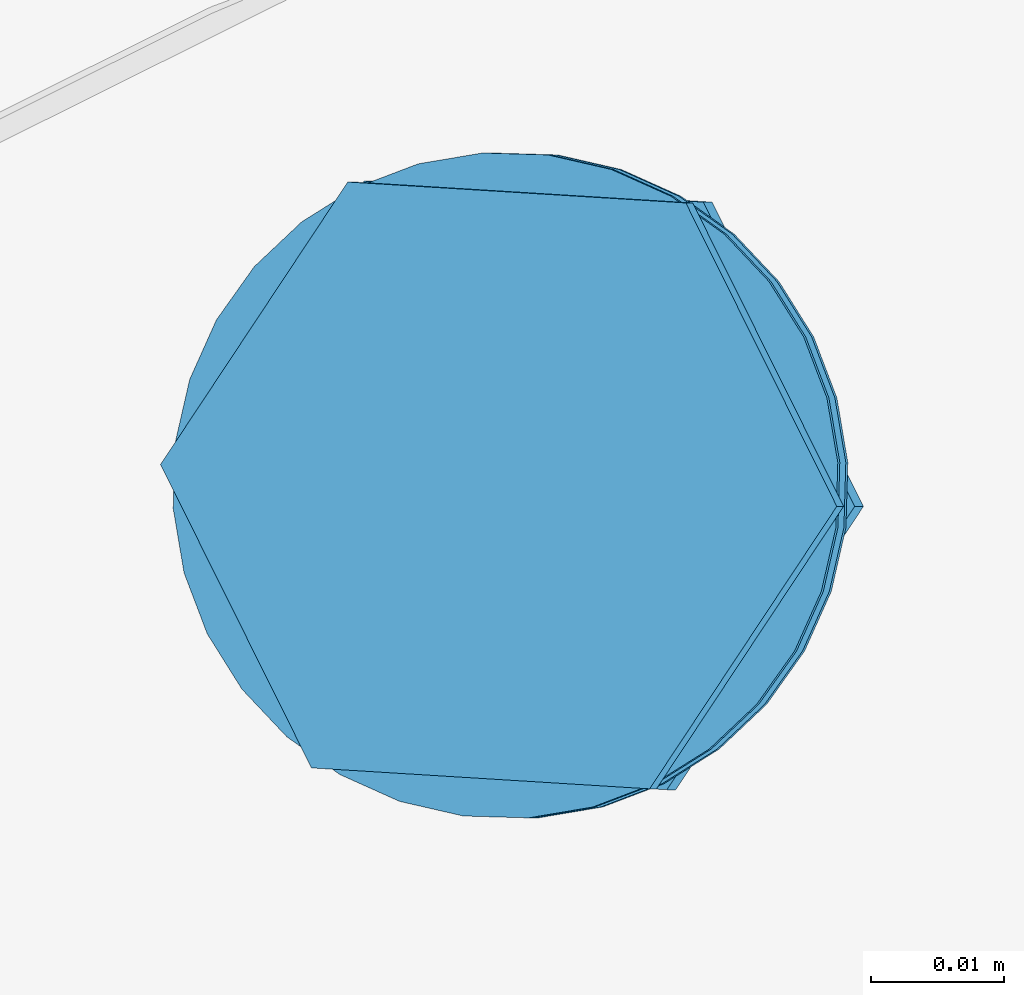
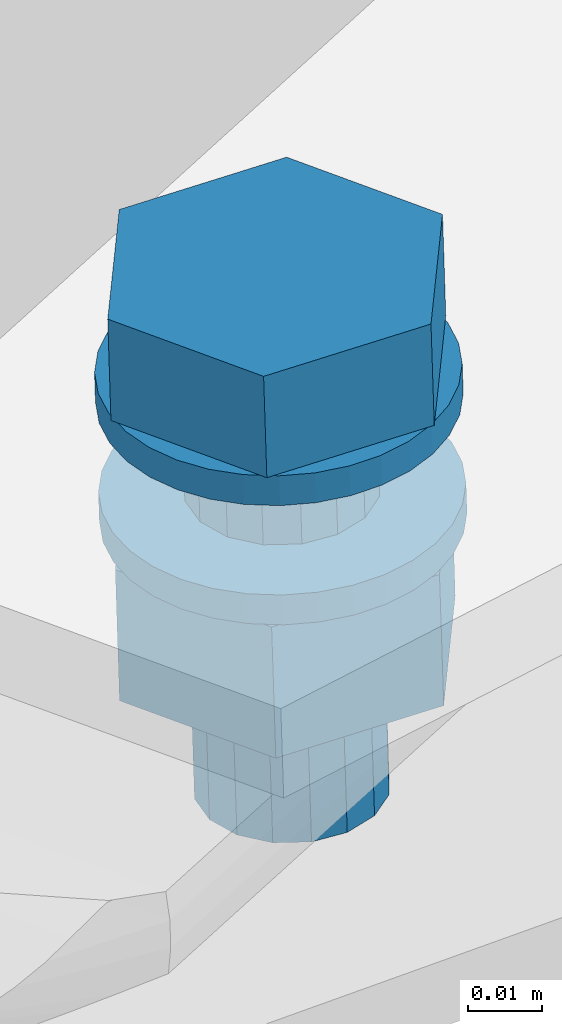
# One storey, part 251 of 476: 1 mechanical fastener.
"""IFC2X3 building model written with IfcOpenShell, lengths in millimetres."""

from ifc_helpers import new_model, entity, si_unit, converted_unit, origin_with_axes, place, context, project, spatial, faceted_brep, element, save


model = new_model("IFC2X3")

# Units and contexts
model_context = context("Model", 3, precision=1e-09, world=origin_with_axes())
ifc_project = project(units=[si_unit("LENGTHUNIT", "METRE", prefix="MILLI"), si_unit("AREAUNIT", "SQUARE_METRE"), si_unit("VOLUMEUNIT", "CUBIC_METRE"), converted_unit("PLANEANGLEUNIT", "DEGREE", entity("IfcPlaneAngleMeasure", 0.01745329), si_unit("PLANEANGLEUNIT", "RADIAN"), dimensions=[0, 0, 0, 0, 0, 0, 0])], contexts=[model_context])

# Site, building, storey
site_placement = place(None, origin_with_axes())
site = spatial("IfcSite", under=ifc_project, at=site_placement, Name="mKR Teilneubau & Sanierung BA1 - Ostfildern", CompositionType="ELEMENT")
building_placement = place(site_placement, origin_with_axes())
building = spatial("IfcBuilding", under=site, at=building_placement, Name="Struktur 1", CompositionType="ELEMENT")
storey_placement = place(building_placement, origin_with_axes())
storey = spatial("IfcBuildingStorey", under=building, at=storey_placement, Name="Default Storey", CompositionType="ELEMENT", Elevation=0.0)

# Mechanical fastener
mechanical_fastener_placement = place(None, origin_with_axes())
element("IfcMechanicalFastener", 1, at=mechanical_fastener_placement, inside=storey, ObjectType="-", NominalDiameter=27.0, NominalLength=70.0, context=model_context, shape_type="Brep", body=[
    faceted_brep([(21677.629020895, -2655.868074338, 5625.365968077), (21677.779230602, -2655.868074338, 5620.368224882), (21675.177424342, -2651.7156186, 5620.290026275), (21675.027214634, -2651.7156186, 5625.28776947), (21671.815872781, -2648.150767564, 5620.188993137), (21671.665663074, -2648.150767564, 5625.186736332), (21667.823758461, -2645.310516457, 5620.069008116), (21667.673548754, -2645.310516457, 5625.066751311), (21663.354496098, -2643.304014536, 5619.934682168), (21663.20428639, -2643.304014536, 5624.932425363), (21658.579836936, -2642.208370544, 5619.791177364), (21658.429627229, -2642.208370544, 5624.788920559), (21653.68326845, -2642.065689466, 5619.644008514), (21653.533058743, -2642.065689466, 5624.641751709), (21648.852963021, -2642.881454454, 5619.498831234), (21648.702753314, -2642.881454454, 5624.496574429), (21644.274546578, -2644.624316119, 5619.361224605), (21644.124336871, -2644.624316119, 5624.3589678), (21640.123965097, -2647.227297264, 5619.236476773), (21639.973755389, -2647.227297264, 5624.234219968), (21636.560723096, -2650.590366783, 5619.129381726), (21636.410513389, -2650.590366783, 5624.127124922), (21633.721753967, -2654.584283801, 5619.044055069), (21633.57154426, -2654.584283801, 5624.041798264), (21631.716157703, -2659.055564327, 5618.983775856), (21631.565947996, -2659.055564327, 5623.981519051), (21630.621008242, -2663.832379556, 5618.950860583), (21630.470798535, -2663.832379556, 5623.948603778), (21630.478391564, -2668.73115916, 5618.946574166), (21630.328181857, -2668.73115916, 5623.944317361), (21631.293788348, -2673.563645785, 5618.97108133), (21631.143578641, -2673.563645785, 5623.968824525), (21633.035863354, -2678.14412968, 5619.023440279), (21632.885653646, -2678.14412968, 5624.021183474), (21635.637669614, -2682.296585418, 5619.101638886), (21635.487459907, -2682.296585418, 5624.099382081), (21638.999221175, -2685.861436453, 5619.202672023), (21638.849011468, -2685.861436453, 5624.200415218), (21642.991335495, -2688.70168756, 5619.322657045), (21642.841125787, -2688.70168756, 5624.32040024), (21647.460597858, -2690.708189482, 5619.456982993), (21647.310388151, -2690.708189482, 5624.454726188), (21652.23525702, -2691.803833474, 5619.600487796), (21652.085047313, -2691.803833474, 5624.598230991), (21657.131825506, -2691.946514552, 5619.747656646), (21656.981615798, -2691.946514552, 5624.745399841), (21661.962130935, -2691.130749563, 5619.892833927), (21661.811921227, -2691.130749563, 5624.890577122), (21666.540547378, -2689.387887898, 5620.030440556), (21666.390337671, -2689.387887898, 5625.028183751), (21670.691128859, -2686.784906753, 5620.155188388), (21670.540919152, -2686.784906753, 5625.152931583), (21674.25437086, -2683.421837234, 5620.262283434), (21674.104161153, -2683.421837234, 5625.260026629), (21677.093339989, -2679.427920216, 5620.347610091), (21676.943130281, -2679.427920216, 5625.345353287), (21679.098936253, -2674.956639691, 5620.407889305), (21678.948726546, -2674.956639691, 5625.4056325), (21680.194085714, -2670.179824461, 5620.440804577), (21680.043876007, -2670.179824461, 5625.438547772), (21680.336702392, -2665.281044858, 5620.445090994), (21680.186492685, -2665.281044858, 5625.442834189), (21679.521305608, -2660.448558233, 5620.42058383), (21679.3710959, -2660.448558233, 5625.418327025)], [[[0, 1, 2, 3]], [[3, 2, 4, 5]], [[5, 4, 6, 7]], [[7, 6, 8, 9]], [[9, 8, 10, 11]], [[11, 10, 12, 13]], [[13, 12, 14, 15]], [[15, 14, 16, 17]], [[17, 16, 18, 19]], [[19, 18, 20, 21]], [[21, 20, 22, 23]], [[23, 22, 24, 25]], [[25, 24, 26, 27]], [[27, 26, 28, 29]], [[29, 28, 30, 31]], [[31, 30, 32, 33]], [[33, 32, 34, 35]], [[35, 34, 36, 37]], [[37, 36, 38, 39]], [[39, 38, 40, 41]], [[41, 40, 42, 43]], [[43, 42, 44, 45]], [[45, 44, 46, 47]], [[47, 46, 48, 49]], [[49, 48, 50, 51]], [[51, 50, 52, 53]], [[53, 52, 54, 55]], [[55, 54, 56, 57]], [[57, 56, 58, 59]], [[59, 58, 60, 61]], [[61, 60, 62, 63]], [[63, 62, 1, 0]], [[0, 3, 5, 7, 9, 11, 13, 15, 17, 19, 21, 23, 25, 27, 29, 31, 33, 35, 37, 39, 41, 43, 45, 47, 49, 51, 53, 55, 57, 59, 61, 63]], [[1, 62, 60, 58, 56, 54, 52, 50, 48, 46, 44, 42, 40, 38, 36, 34, 32, 30, 28, 26, 24, 22, 20, 18, 16, 14, 12, 10, 8, 6, 4, 2]]]),
    faceted_brep([(21629.892394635, -2665.434757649, 5623.931219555), (21629.38168163, -2665.434757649, 5640.923546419), (21643.424362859, -2644.243825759, 5641.345606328), (21643.935075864, -2644.243825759, 5624.353279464), (21668.789305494, -2645.815170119, 5642.107962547), (21669.300018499, -2645.815170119, 5625.115635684), (21680.111566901, -2668.577446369, 5642.448258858), (21680.622279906, -2668.577446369, 5625.455931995), (21666.068885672, -2689.768378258, 5642.026198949), (21666.579598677, -2689.768378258, 5625.033872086), (21640.703943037, -2688.197033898, 5641.26384273), (21641.214656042, -2688.197033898, 5624.271515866)], [[[0, 1, 2, 3]], [[3, 2, 4, 5]], [[5, 4, 6, 7]], [[7, 6, 8, 9]], [[9, 8, 10, 11]], [[11, 10, 1, 0]], [[4, 2, 1, 10, 8, 6]], [[0, 3, 5, 7, 9, 11]]]),
    faceted_brep([(21667.488256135, -2660.991567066, 5620.058924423), (21667.938918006, -2660.991567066, 5605.064605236), (21664.718704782, -2656.824221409, 5604.967820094), (21664.268042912, -2656.824221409, 5619.962139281), (21660.149561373, -2654.206974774, 5604.83049217), (21659.698899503, -2654.206974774, 5619.824811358), (21654.927098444, -2653.538279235, 5604.673528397), (21654.476436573, -2653.538279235, 5619.667847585), (21649.846388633, -2654.919937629, 5604.520825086), (21649.395726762, -2654.919937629, 5619.515144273), (21645.680923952, -2658.141604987, 5604.395629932), (21645.230262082, -2658.141604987, 5619.389949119), (21643.06485864, -2662.71281166, 5604.317002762), (21642.614196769, -2662.71281166, 5619.311321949), (21642.396464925, -2667.93763287, 5604.29691385), (21641.945803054, -2667.93763287, 5619.291233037), (21643.777499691, -2673.020636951, 5604.33842155), (21643.326837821, -2673.020636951, 5619.332740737), (21646.997712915, -2677.187982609, 5604.435206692), (21646.547051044, -2677.187982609, 5619.42952588), (21651.566856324, -2679.805229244, 5604.572534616), (21651.116194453, -2679.805229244, 5619.566853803), (21656.789319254, -2680.473924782, 5604.729498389), (21656.338657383, -2680.473924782, 5619.723817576), (21661.870029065, -2679.092266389, 5604.8822017), (21661.419367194, -2679.092266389, 5619.876520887), (21666.035493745, -2675.87059903, 5605.007396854), (21665.584831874, -2675.87059903, 5620.001716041), (21668.651559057, -2671.299392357, 5605.086024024), (21668.200897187, -2671.299392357, 5620.080343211), (21669.319952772, -2666.074571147, 5605.106112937), (21668.869290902, -2666.074571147, 5620.100432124)], [[[0, 1, 2, 3]], [[3, 2, 4, 5]], [[5, 4, 6, 7]], [[7, 6, 8, 9]], [[9, 8, 10, 11]], [[11, 10, 12, 13]], [[13, 12, 14, 15]], [[15, 14, 16, 17]], [[17, 16, 18, 19]], [[19, 18, 20, 21]], [[21, 20, 22, 23]], [[23, 22, 24, 25]], [[25, 24, 26, 27]], [[27, 26, 28, 29]], [[29, 28, 30, 31]], [[31, 30, 1, 0]], [[0, 3, 5, 7, 9, 11, 13, 15, 17, 19, 21, 23, 25, 27, 29, 31]], [[1, 30, 28, 26, 24, 22, 20, 18, 16, 14, 12, 10, 8, 6, 4, 2]]]),
    faceted_brep([(21678.229892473, -2655.868074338, 5605.373905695), (21678.38010218, -2655.868074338, 5600.3761625), (21675.77829592, -2651.7156186, 5600.297963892), (21675.628086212, -2651.7156186, 5605.295707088), (21672.416744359, -2648.150767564, 5600.196930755), (21672.266534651, -2648.150767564, 5605.19467395), (21668.424630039, -2645.310516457, 5600.076945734), (21668.274420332, -2645.310516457, 5605.074688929), (21663.955367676, -2643.304014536, 5599.942619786), (21663.805157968, -2643.304014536, 5604.940362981), (21659.180708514, -2642.208370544, 5599.799114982), (21659.030498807, -2642.208370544, 5604.796858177), (21654.284140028, -2642.065689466, 5599.651946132), (21654.133930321, -2642.065689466, 5604.649689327), (21649.453834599, -2642.881454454, 5599.506768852), (21649.303624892, -2642.881454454, 5604.504512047), (21644.875418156, -2644.624316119, 5599.369162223), (21644.725208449, -2644.624316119, 5604.366905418), (21640.724836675, -2647.227297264, 5599.24441439), (21640.574626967, -2647.227297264, 5604.242157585), (21637.161594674, -2650.590366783, 5599.137319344), (21637.011384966, -2650.590366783, 5604.135062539), (21634.322625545, -2654.584283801, 5599.051992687), (21634.172415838, -2654.584283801, 5604.049735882), (21632.317029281, -2659.055564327, 5598.991713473), (21632.166819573, -2659.055564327, 5603.989456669), (21631.22187982, -2663.832379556, 5598.958798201), (21631.071670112, -2663.832379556, 5603.956541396), (21631.079263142, -2668.73115916, 5598.954511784), (21630.929053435, -2668.73115916, 5603.952254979), (21631.894659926, -2673.563645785, 5598.979018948), (21631.744450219, -2673.563645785, 5603.976762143), (21633.636734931, -2678.14412968, 5599.031377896), (21633.486525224, -2678.14412968, 5604.029121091), (21636.238541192, -2682.296585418, 5599.109576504), (21636.088331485, -2682.296585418, 5604.107319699), (21639.600092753, -2685.861436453, 5599.210609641), (21639.449883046, -2685.861436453, 5604.208352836), (21643.592207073, -2688.70168756, 5599.330594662), (21643.441997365, -2688.70168756, 5604.328337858), (21648.061469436, -2690.708189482, 5599.46492061), (21647.911259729, -2690.708189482, 5604.462663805), (21652.836128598, -2691.803833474, 5599.608425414), (21652.685918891, -2691.803833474, 5604.606168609), (21657.732697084, -2691.946514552, 5599.755594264), (21657.582487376, -2691.946514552, 5604.753337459), (21662.563002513, -2691.130749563, 5599.900771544), (21662.412792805, -2691.130749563, 5604.898514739), (21667.141418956, -2689.387887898, 5600.038378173), (21666.991209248, -2689.387887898, 5605.036121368), (21671.292000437, -2686.784906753, 5600.163126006), (21671.14179073, -2686.784906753, 5605.160869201), (21674.855242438, -2683.421837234, 5600.270221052), (21674.705032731, -2683.421837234, 5605.267964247), (21677.694211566, -2679.427920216, 5600.355547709), (21677.544001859, -2679.427920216, 5605.353290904), (21679.699807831, -2674.956639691, 5600.415826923), (21679.549598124, -2674.956639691, 5605.413570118), (21680.794957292, -2670.179824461, 5600.448742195), (21680.644747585, -2670.179824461, 5605.44648539), (21680.93757397, -2665.281044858, 5600.453028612), (21680.787364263, -2665.281044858, 5605.450771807), (21680.122177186, -2660.448558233, 5600.428521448), (21679.971967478, -2660.448558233, 5605.426264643)], [[[0, 1, 2, 3]], [[3, 2, 4, 5]], [[5, 4, 6, 7]], [[7, 6, 8, 9]], [[9, 8, 10, 11]], [[11, 10, 12, 13]], [[13, 12, 14, 15]], [[15, 14, 16, 17]], [[17, 16, 18, 19]], [[19, 18, 20, 21]], [[21, 20, 22, 23]], [[23, 22, 24, 25]], [[25, 24, 26, 27]], [[27, 26, 28, 29]], [[29, 28, 30, 31]], [[31, 30, 32, 33]], [[33, 32, 34, 35]], [[35, 34, 36, 37]], [[37, 36, 38, 39]], [[39, 38, 40, 41]], [[41, 40, 42, 43]], [[43, 42, 44, 45]], [[45, 44, 46, 47]], [[47, 46, 48, 49]], [[49, 48, 50, 51]], [[51, 50, 52, 53]], [[53, 52, 54, 55]], [[55, 54, 56, 57]], [[57, 56, 58, 59]], [[59, 58, 60, 61]], [[61, 60, 62, 63]], [[63, 62, 1, 0]], [[0, 3, 5, 7, 9, 11, 13, 15, 17, 19, 21, 23, 25, 27, 29, 31, 33, 35, 37, 39, 41, 43, 45, 47, 49, 51, 53, 55, 57, 59, 61, 63]], [[1, 62, 60, 58, 56, 54, 52, 50, 48, 46, 44, 42, 40, 38, 36, 34, 32, 30, 28, 26, 24, 22, 20, 18, 16, 14, 12, 10, 8, 6, 4, 2]]]),
    faceted_brep([(21631.229575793, -2665.430122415, 5576.949095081), (21630.568653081, -2665.430122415, 5598.93916514), (21644.652758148, -2644.176680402, 5599.362470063), (21645.31368086, -2644.176680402, 5577.372400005), (21670.092523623, -2645.752659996, 5600.127075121), (21670.753446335, -2645.752659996, 5578.137005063), (21681.448184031, -2668.582081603, 5600.468375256), (21682.109106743, -2668.582081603, 5578.478305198), (21667.364078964, -2689.835523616, 5600.045070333), (21668.025001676, -2689.835523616, 5578.055000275), (21641.924313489, -2688.259544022, 5599.280465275), (21642.585236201, -2688.259544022, 5577.290395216)], [[[0, 1, 2, 3]], [[3, 2, 4, 5]], [[5, 4, 6, 7]], [[7, 6, 8, 9]], [[9, 8, 10, 11]], [[11, 10, 1, 0]], [[4, 2, 1, 10, 8, 6]], [[0, 3, 5, 7, 9, 11]]]),
    faceted_brep([(21668.750050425, -2660.991567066, 5578.076791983), (21669.440982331, -2660.991567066, 5555.088262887), (21666.220769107, -2656.824221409, 5554.991477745), (21665.529837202, -2656.824221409, 5577.98000684), (21661.651625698, -2654.206974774, 5554.854149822), (21660.960693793, -2654.206974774, 5577.842678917), (21656.429162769, -2653.538279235, 5554.697186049), (21655.738230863, -2653.538279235, 5577.685715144), (21651.348452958, -2654.919937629, 5554.544482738), (21650.657521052, -2654.919937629, 5577.533011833), (21647.182988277, -2658.141604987, 5554.419287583), (21646.492056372, -2658.141604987, 5577.407816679), (21644.566922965, -2662.71281166, 5554.340660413), (21643.87599106, -2662.71281166, 5577.329189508), (21643.89852925, -2667.93763287, 5554.320571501), (21643.207597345, -2667.93763287, 5577.309100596), (21645.279564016, -2673.020636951, 5554.362079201), (21644.588632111, -2673.020636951, 5577.350608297), (21648.49977724, -2677.187982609, 5554.458864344), (21647.808845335, -2677.187982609, 5577.447393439), (21653.068920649, -2679.805229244, 5554.596192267), (21652.377988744, -2679.805229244, 5577.584721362), (21658.291383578, -2680.473924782, 5554.75315604), (21657.600451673, -2680.473924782, 5577.741685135), (21663.372093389, -2679.092266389, 5554.905859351), (21662.681161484, -2679.092266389, 5577.894388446), (21667.53755807, -2675.87059903, 5555.031054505), (21666.846626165, -2675.87059903, 5578.019583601), (21670.153623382, -2671.299392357, 5555.109681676), (21669.462691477, -2671.299392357, 5578.098210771), (21670.822017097, -2666.074571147, 5555.129770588), (21670.131085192, -2666.074571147, 5578.118299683)], [[[0, 1, 2, 3]], [[3, 2, 4, 5]], [[5, 4, 6, 7]], [[7, 6, 8, 9]], [[9, 8, 10, 11]], [[11, 10, 12, 13]], [[13, 12, 14, 15]], [[15, 14, 16, 17]], [[17, 16, 18, 19]], [[19, 18, 20, 21]], [[21, 20, 22, 23]], [[23, 22, 24, 25]], [[25, 24, 26, 27]], [[27, 26, 28, 29]], [[29, 28, 30, 31]], [[31, 30, 1, 0]], [[0, 3, 5, 7, 9, 11, 13, 15, 17, 19, 21, 23, 25, 27, 29, 31]], [[1, 30, 28, 26, 24, 22, 20, 18, 16, 14, 12, 10, 8, 6, 4, 2]]]),
])

save(model, "model.ifc")
